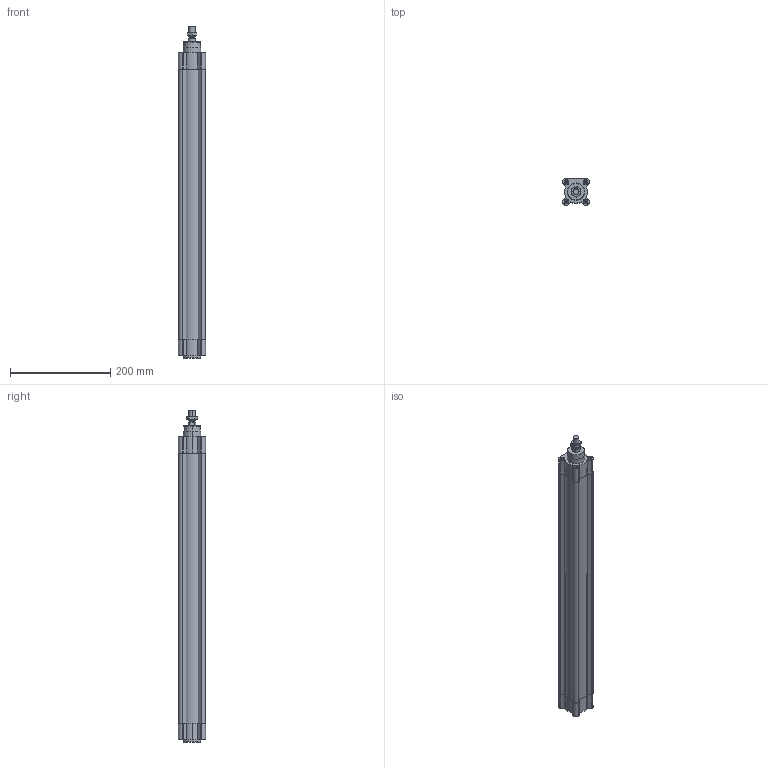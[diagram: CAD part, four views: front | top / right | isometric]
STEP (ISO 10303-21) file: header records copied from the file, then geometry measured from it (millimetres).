
FILE_DESCRIPTION (( 'STEP AP203' ), '1' );
FILE_NAME ('CPME40-500.STEP', '2023-07-20T18:12:03', ( '' ), ( '' ), 'SwSTEP 2.0', 'SolidWorks 2019', '' );
FILE_SCHEMA (( 'CONFIG_CONTROL_DESIGN' ));
Length unit declared in the file: millimetre
Products named in the file (1): CPME40-500
Bounding box: 54 x 54 x 661.9 mm (x, y, z)
Volume: 784520.1 mm3; surface area: 278617.2 mm2
Topology: 3 solids, 3 shells, 629 faces, 1625 edges, 1030 vertices
Faces by surface type: plane 319, cylinder 196, cone 106, torus 8
Entity records: 19673 total; most frequent: CARTESIAN_POINT 4365, ORIENTED_EDGE 3218, DIRECTION 3129, EDGE_CURVE 1609, AXIS2_PLACEMENT_3D 1113, VERTEX_POINT 1030, LINE 903, VECTOR 903
